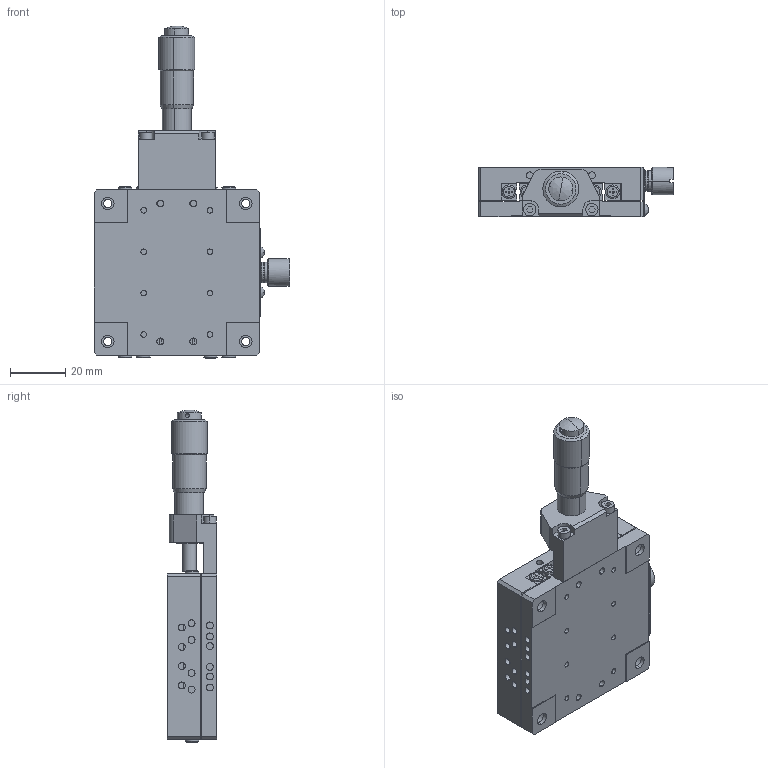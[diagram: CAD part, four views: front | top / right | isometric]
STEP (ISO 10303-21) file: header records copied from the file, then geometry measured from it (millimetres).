
FILE_DESCRIPTION (( 'STEP AP214' ), '1' );
FILE_NAME ('PHL-661C.STEP', '2019-01-24T02:27:50', ( '微软用户' ), ( '微软中国' ), 'SwSTEP 2.0', 'SolidWorks 2015', '' );
FILE_SCHEMA (( 'AUTOMOTIVE_DESIGN' ));
Length unit declared in the file: millimetre
Products named in the file (2): PHL-661C
Bounding box: 71 x 18 x 120.3 mm (x, y, z)
Volume: 63500.3 mm3; surface area: 42170.9 mm2
Topology: 45 solids, 45 shells, 1163 faces, 2799 edges, 1835 vertices
Faces by surface type: plane 605, cylinder 468, cone 79, bspline 11
Entity records: 47904 total; most frequent: CARTESIAN_POINT 6400, DIRECTION 6071, ORIENTED_EDGE 5566, EDGE_CURVE 2783, AXIS2_PLACEMENT_3D 2220, VERTEX_POINT 1833, VECTOR 1631, LINE 1631
